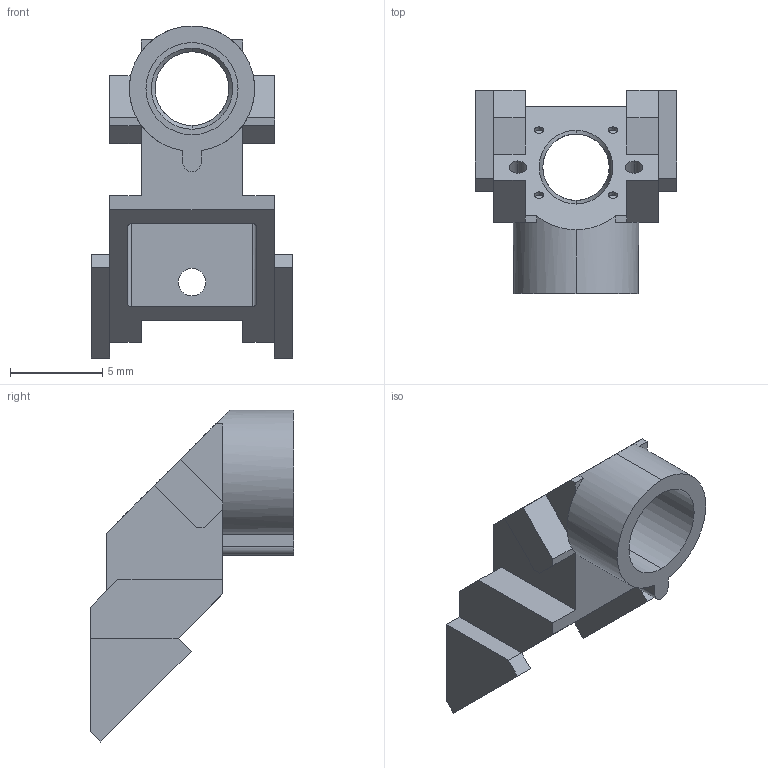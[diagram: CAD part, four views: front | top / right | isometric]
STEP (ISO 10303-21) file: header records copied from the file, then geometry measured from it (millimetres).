
FILE_DESCRIPTION (( 'STEP AP203' ), '1' );
FILE_NAME ('102-ScopeBody P1 - new version_20220912.STEP', '2022-09-12T07:47:34', ( '' ), ( '' ), 'SwSTEP 2.0', 'SolidWorks 2021', '' );
FILE_SCHEMA (( 'CONFIG_CONTROL_DESIGN' ));
Length unit declared in the file: millimetre
Products named in the file (1): 102-ScopeBody P1  - new version_20220912
Bounding box: 10.95 x 11.04 x 18.02 mm (x, y, z)
Volume: 344.6 mm3; surface area: 830.8 mm2
Topology: 1 solids, 1 shells, 107 faces, 276 edges, 172 vertices
Faces by surface type: plane 62, cylinder 33, cone 12
Entity records: 3307 total; most frequent: CARTESIAN_POINT 628, DIRECTION 540, ORIENTED_EDGE 536, EDGE_CURVE 268, LINE 188, VECTOR 188, AXIS2_PLACEMENT_3D 176, VERTEX_POINT 172
